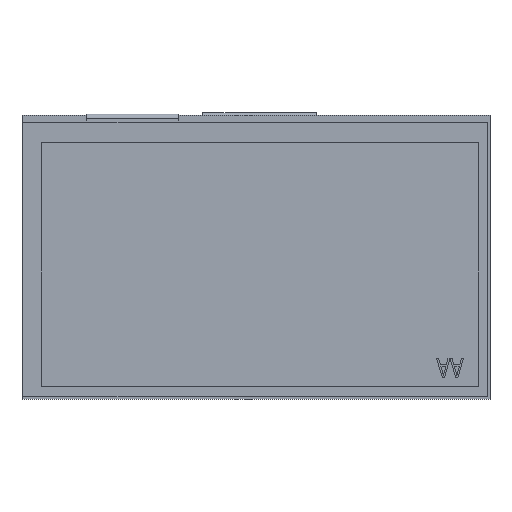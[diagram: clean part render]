
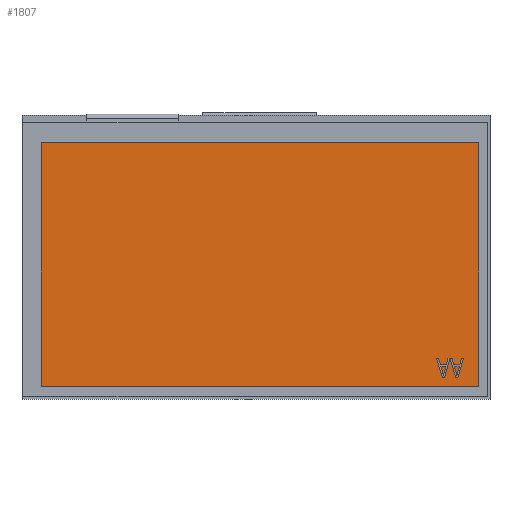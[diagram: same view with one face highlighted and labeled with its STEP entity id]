
A CAD part, top view. The second image highlights one B-rep face of the part: STEP entity #1807.
In plain terms, the highlighted planar face has unit normal (0, 0, 1).
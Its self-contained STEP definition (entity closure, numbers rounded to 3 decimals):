
#1807=ADVANCED_FACE('',(#2338),#2072,.T.);
#2072=PLANE('',#7702);
#2338=FACE_OUTER_BOUND('',#2619,.T.);
#2619=EDGE_LOOP('',(#3640,#3641,#3642,#3643));
#3640=ORIENTED_EDGE('',*,*,#4918,.T.);
#3641=ORIENTED_EDGE('',*,*,#4922,.T.);
#3642=ORIENTED_EDGE('',*,*,#4925,.T.);
#3643=ORIENTED_EDGE('',*,*,#4927,.T.);
#4324=VERTEX_POINT('',#10309);
#4325=VERTEX_POINT('',#10311);
#4327=VERTEX_POINT('',#10317);
#4329=VERTEX_POINT('',#10323);
#4918=EDGE_CURVE('',#4325,#4324,#6046,.T.);
#4922=EDGE_CURVE('',#4324,#4327,#6050,.T.);
#4925=EDGE_CURVE('',#4327,#4329,#6053,.T.);
#4927=EDGE_CURVE('',#4329,#4325,#6055,.T.);
#6046=LINE('',#10310,#6771);
#6050=LINE('',#10318,#6775);
#6053=LINE('',#10324,#6778);
#6055=LINE('',#10327,#6780);
#6771=VECTOR('',#8806,1.);
#6775=VECTOR('',#8812,1.);
#6778=VECTOR('',#8817,1.);
#6780=VECTOR('',#8821,1.);
#7702=AXIS2_PLACEMENT_3D('',#10329,#8824,#8825);
#8806=DIRECTION('',(0.,-1.,0.));
#8812=DIRECTION('',(1.,0.,0.));
#8817=DIRECTION('',(0.,1.,0.));
#8821=DIRECTION('',(-1.,0.,0.));
#8824=DIRECTION('',(0.,0.,1.));
#8825=DIRECTION('',(-1.,0.,0.));
#10309=CARTESIAN_POINT('',(-55.646,-55.18,5.62));
#10310=CARTESIAN_POINT('',(-55.646,30.74,5.62));
#10311=CARTESIAN_POINT('',(-55.646,30.74,5.62));
#10317=CARTESIAN_POINT('',(98.434,-55.18,5.62));
#10318=CARTESIAN_POINT('',(-55.646,-55.18,5.62));
#10323=CARTESIAN_POINT('',(98.434,30.74,5.62));
#10324=CARTESIAN_POINT('',(98.434,-55.18,5.62));
#10327=CARTESIAN_POINT('',(98.434,30.74,5.62));
#10329=CARTESIAN_POINT('',(14.54,-5.25,5.62));
